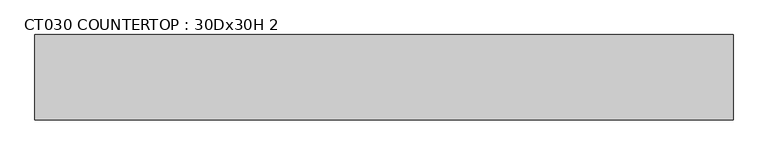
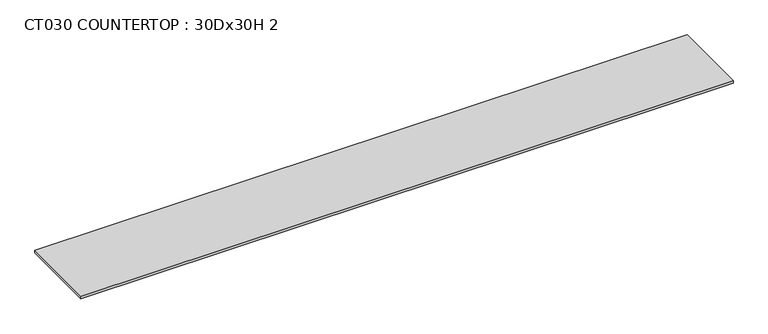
"""IFC4 building model written with IfcOpenShell, lengths in millimetres: furniture geometry, CT030 COUNTERTOP : 30Dx30H 2."""

from ifc_helpers import new_model, si_unit, frame, origin, place, context, project, spatial, polyline, outline, extrude, source, transform, mapped, element, save


def ct030_countertop_30dx30h_2_41c53904(model_context):
    return source(origin(), model_context, "Body", "SweptSolid", [
        extrude(outline(polyline([(5024.1255289, -462.6), (5024.1255289, -1224.6), (-1200.4622951, -1224.6), (-1200.4622951, -462.6), (5024.1255289, -462.6)])), frame((0.0, 0.0, 736.6), z_axis=(0.0, 0.0, 1.0), x_axis=(1.0, 0.0, 0.0)), (0.0, 0.0, 1.0), 25.4),
    ])


if __name__ == "__main__":
    model = new_model("IFC4")
    model_context = context("Model", 3, world=origin())
    ifc_project = project(units=[si_unit("LENGTHUNIT", "METRE", prefix="MILLI")], contexts=[model_context])
    site = spatial("IfcSite", under=ifc_project)
    building = spatial("IfcBuilding", under=site)
    placement = place(None, origin())
    ct030_countertop_30dx30h_2_shape = ct030_countertop_30dx30h_2_41c53904(model_context)
    element("IfcFurniture", 1, ObjectType="CT030 COUNTERTOP : 30Dx30H 2", at=placement, inside=building, context=model_context, shape_type="MappedRepresentation", body=[
        mapped(ct030_countertop_30dx30h_2_shape, transform((0.0, 0.0, 0.0), x_axis=(1.0, 0.0, 0.0), y_axis=(0.0, 1.0, 0.0), z_axis=(0.0, 0.0, 1.0))),
    ])
    save(model, "model.ifc")
